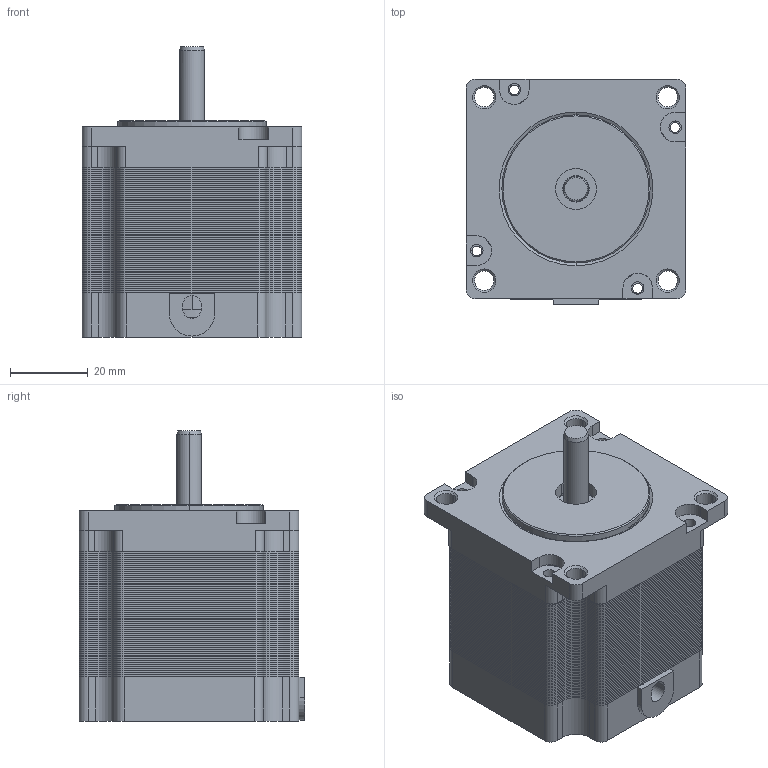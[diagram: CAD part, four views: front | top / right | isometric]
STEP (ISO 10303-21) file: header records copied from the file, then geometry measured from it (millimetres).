
FILE_DESCRIPTION((''),'2;1');
FILE_NAME('3_1_01_057_0074_SW0001','2020-10-23T16:24:25',('wuyong'),(''),'CREO PARAMETRIC BY PTC INC, 2017110','CREO PARAMETRIC BY PTC INC, 2017110','');
FILE_SCHEMA(('CONFIG_CONTROL_DESIGN'));
Products named in the file (1): 3_1_01_057_0074_SW0001
Bounding box: 56.4 x 57.9 x 74.6 mm (x, y, z)
Surface area: 48894.7 mm2 (no closed solid volume)
Topology: 0 solids, 3645 shells, 6551 faces, 24457 edges, 21226 vertices
Faces by surface type: cylinder 4860, plane 1668, cone 20, bspline 3
Entity records: 256820 total; most frequent: CARTESIAN_POINT 53320, DIRECTION 47529, ORIENTED_EDGE 28402, EDGE_CURVE 24457, VERTEX_POINT 21226, AXIS2_PLACEMENT_3D 16627, VECTOR 14275, LINE 14275
